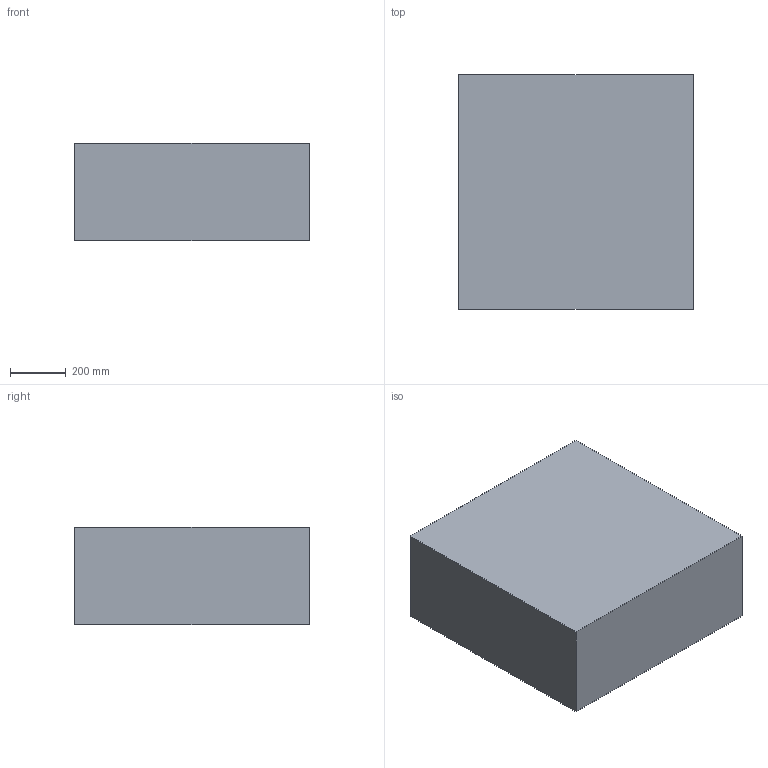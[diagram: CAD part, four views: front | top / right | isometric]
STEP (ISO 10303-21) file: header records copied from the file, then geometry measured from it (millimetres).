
FILE_DESCRIPTION(('FreeCAD Model'),'2;1');
FILE_NAME('Open CASCADE Shape Model','2026-03-31T09:54:01',('FreeCAD'),( 'FreeCAD'),'Open CASCADE STEP processor 7.8','FreeCAD','Unknown');
FILE_SCHEMA(('AUTOMOTIVE_DESIGN { 1 0 10303 214 1 1 1 1 }'));
Length unit declared in the file: millimetre
Products named in the file (1): Open CASCADE STEP translator 7.8 5
Bounding box: 840 x 840 x 350 mm (x, y, z)
Volume: 246960000 mm3; surface area: 2587200 mm2
Topology: 1 solids, 1 shells, 6 faces, 12 edges, 8 vertices
Faces by surface type: plane 6
Entity records: 166 total; most frequent: CARTESIAN_POINT 27, DIRECTION 26, ORIENTED_EDGE 24, EDGE_CURVE 12, LINE 12, VECTOR 12, VERTEX_POINT 8, AXIS2_PLACEMENT_3D 7
